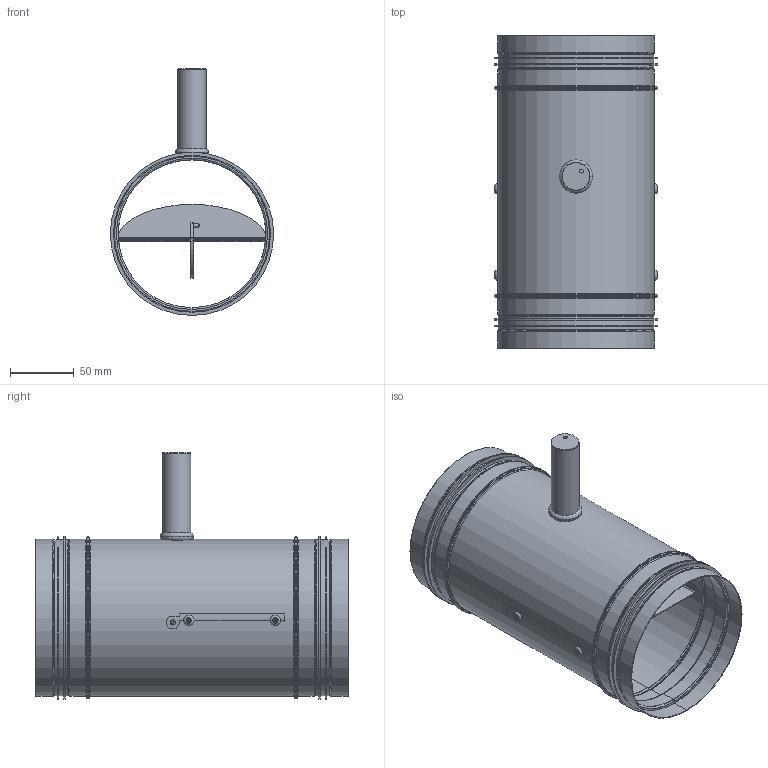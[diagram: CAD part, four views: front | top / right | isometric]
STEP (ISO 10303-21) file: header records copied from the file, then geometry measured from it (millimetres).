
FILE_DESCRIPTION(/* description */ ('540_125x100_VRK-N'),/* implementation_level */ '2;1');
FILE_NAME(/* name */ '233_125_VRK.stp',/* time_stamp */ '2024-06-25T11:08:19+02:00',/* author */ ('bonsen'),/* organization */ ('Aerotechnik E. Siegwart GmbH'),/* preprocessor_version */ 'ST-DEVELOPER v20',/* originating_system */ 'Autodesk Inventor 2024',/* authorisation */ '');
FILE_SCHEMA (('AUTOMOTIVE_DESIGN { 1 0 10303 214 3 1 1 }'));
Length unit declared in the file: millimetre
Products named in the file (5): 540_125x100_VRK-N; Rohrkörper; Daempferplatte; Verstelleinheit; Lippengummi
Assembly tree (5 placements, depth 2):
  540_125x100_VRK-N
    Rohrkörper
    Daempferplatte
    Verstelleinheit
    Lippengummi  x2
Bounding box: 128 x 245 x 193.5 mm (x, y, z)
Volume: 126379.6 mm3; surface area: 279495 mm2
Topology: 7 solids, 7 shells, 258 faces, 536 edges, 300 vertices
Faces by surface type: plane 151, cylinder 62, torus 42, bspline 2, cone 1
Full cylindrical faces by diameter (mm): 2 x5, 3 x2, 4 x2, 8 x4, 21.5 x1, 22 x1, 26 x1, 115.74 x2, 117 x2, 118 x2, 121.74 x5, 122 x6, 123 x5, 125.74 x2, 127 x2, 128 x4
Entity records: 6810 total; most frequent: DIRECTION 1264, CARTESIAN_POINT 1191, ORIENTED_EDGE 1036, EDGE_CURVE 518, AXIS2_PLACEMENT_3D 502, VERTEX_POINT 288, EDGE_LOOP 264, LINE 260
